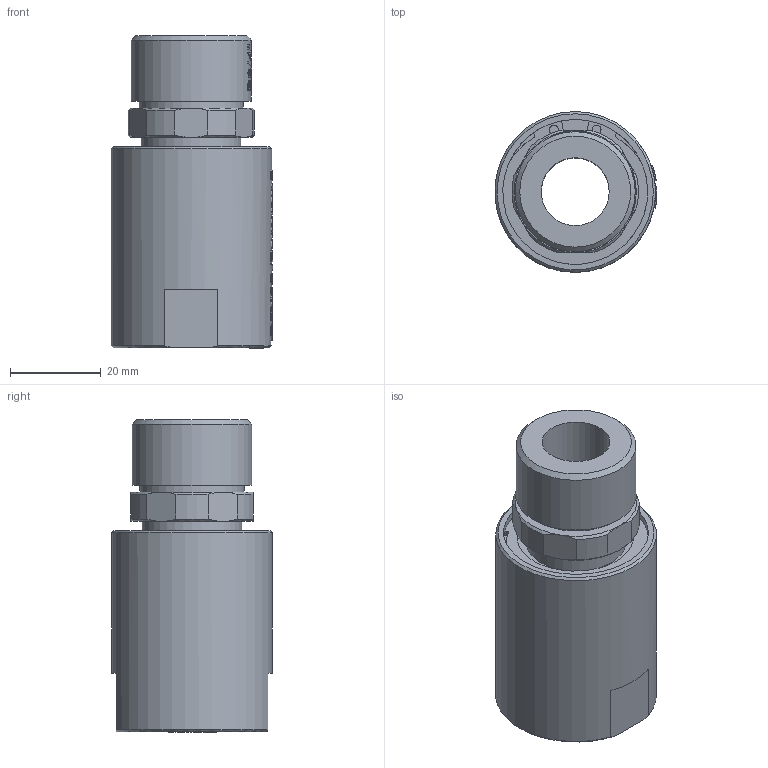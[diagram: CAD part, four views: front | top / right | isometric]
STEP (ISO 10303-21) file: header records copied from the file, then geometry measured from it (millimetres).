
FILE_DESCRIPTION(/* description */ (''),/* implementation_level */ '2;1');
FILE_NAME(/* name */ 'YYK0106(RH)-3D模型.stp',/* time_stamp */ '2025-07-09T09:34:38+08:00',/* author */ (''),/* organization */ (''),/* preprocessor_version */ 'ST-DEVELOPER v16.7',/* originating_system */ 'SIEMENS PLM Software NX 12.0',/* authorisation */ '');
FILE_SCHEMA (('AUTOMOTIVE_DESIGN { 1 0 10303 214 3 1 1 1 }'));
Products named in the file (1): Admi1300D6723wdz
Bounding box: 35.74 x 35.5 x 69.1 mm (x, y, z)
Volume: 40001.5 mm3; surface area: 13747.5 mm2
Topology: 1 solids, 1 shells, 1115 faces, 3093 edges, 2057 vertices
Faces by surface type: extrusion 650, plane 351, cylinder 55, bspline 43, cone 16
Full cylindrical faces by diameter (mm): 2 x2, 15 x1, 22 x1, 23 x1, 24 x1, 26.5 x1, 32 x1, 33.3 x1, 35.5 x1
Entity records: 45820 total; most frequent: CARTESIAN_POINT 21932, ORIENTED_EDGE 6148, EDGE_CURVE 3074, B_SPLINE_CURVE_WITH_KNOTS 3041, DIRECTION 2446, VERTEX_POINT 2050, EDGE_LOOP 1212, ADVANCED_FACE 1115
